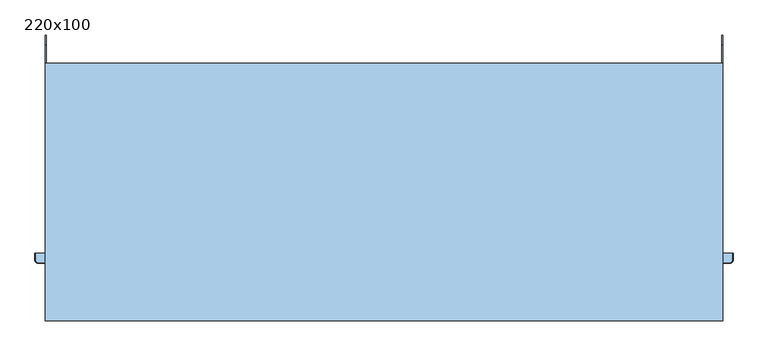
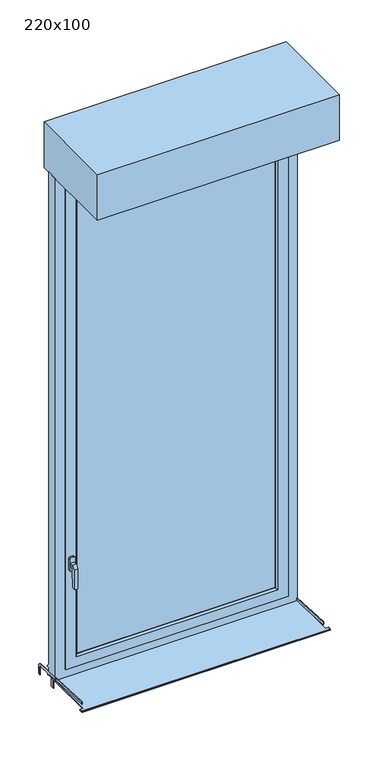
"""IFC4 building model written with IfcOpenShell, lengths in millimetres: window geometry, Tunnel 1V+VR+ Voile : 220x100."""

from ifc_helpers import new_model, si_unit, point, frame, frame_2d, origin, place, context, project, spatial, polyline, circle_curve, trimmed, segment, composite_curve, outline, extrude, faceted_brep, source, transform, mapped, element, save
from ifc_brep_helpers import plane_surface, cylinder_surface, revolved_surface, advanced_brep


def window_220x100_2f9f3537(model_context):
    return source(origin(), model_context, "Body", "SolidModel", [
        faceted_brep([(-445.5, 87.0, 1306.0), (-429.5, 87.0, 1306.0), (-429.5, 87.0, 1294.0), (-445.5, 87.0, 1294.0), (-445.5, 74.5147186, 1306.0), (-429.5, 74.5147186, 1306.0), (-429.5, 61.0, 1292.4852814), (-429.5, 61.0, 1208.5355339), (-429.5, 70.2419861, 1208.5355339), (-429.5, 72.9900091, 1287.2286157), (-429.5, 73.0, 1287.5147186), (-429.5, 79.4852814, 1294.0), (-445.5, 79.4852814, 1294.0), (-445.5, 73.0, 1287.5147186), (-445.5, 73.0, 1287.2282668), (-445.5, 70.2419861, 1208.5355339), (-445.5, 61.0, 1208.5355339), (-445.5, 61.0, 1292.4852814), (-433.0355339, 61.0, 1205.0), (-441.9644661, 61.0, 1205.0), (-441.9644661, 70.1185225, 1205.0), (-433.0355339, 70.1185225, 1205.0)], [[[0, 1, 2, 3]], [[1, 0, 4, 5]], [[2, 1, 5, 6, 7, 8, 9, 10, 11]], [[3, 2, 11, 12]], [[0, 3, 12, 13, 14, 15, 16, 17, 4]], [[5, 4, 17, 6]], [[11, 10, 13, 12]], [[18, 19, 20, 21]], [[6, 17, 16, 19, 18, 7]], [[13, 10, 9, 14]], [[14, 9, 8, 21, 20, 15]], [[8, 7, 18, 21]], [[16, 15, 20, 19]]]),
        extrude(outline(polyline([(1330.0, -444.5), (1325.0, -449.5), (1275.0, -449.5), (1270.0, -444.5), (1270.0, -430.5), (1275.0, -425.5), (1325.0, -425.5), (1330.0, -430.5), (1330.0, -444.5)])), frame((0.0, 87.0, 0.0), z_axis=(0.0, 1.0, 0.0), x_axis=(0.0, 0.0, 1.0)), (0.0, 0.0, 1.0), 8.0),
        extrude(outline(polyline([(115.0, 799.2138833), (130.0, 798.4277666), (130.0, 762.0), (115.0, 762.0), (115.0, 799.2138833)])), frame((-500.0, 0.0, 0.0), z_axis=(1.0, 0.0, 0.0), x_axis=(0.0, 1.0, 0.0)), (0.0, 0.0, 1.0), 2.0),
        extrude(outline(polyline([(130.0, 798.4277666), (130.0, 762.0), (115.0, 762.0), (115.0, 799.2138833), (130.0, 798.4277666)])), frame((498.0, 0.0, 0.0), z_axis=(1.0, 0.0, 0.0), x_axis=(0.0, 1.0, 0.0)), (0.0, 0.0, 1.0), 2.0),
        extrude(outline(composite_curve([segment(polyline([(221.5, 762.0), (211.5, 762.0), (211.5, 795.1063906)]), True, "CONTINUOUS"), segment(trimmed(circle_curve(frame_2d((206.5, 795.1063906)), 5.0), [point((211.5, 795.1063906))], [point((206.7616798, 800.0995383))], True, "CARTESIAN"), True, "CONTINUOUS"), segment(polyline([(206.7616798, 800.0995383), (155.0, 802.812253), (155.0, 797.1175721), (150.0, 797.379611), (150.0, 803.0742919), (-90.0, 815.6521589), (-89.4766404, 825.6384543), (207.2850393, 810.0858337)]), True, "CONTINUOUS"), segment(trimmed(circle_curve(frame_2d((206.5, 795.1063906)), 15.0), [point((207.2850393, 810.0858337))], [point((221.5, 795.1063906))], False, "CARTESIAN"), True, "CONTINUOUS"), segment(polyline([(221.5, 795.1063906), (221.5, 762.0)]), True, "CONTINUOUS")], self_intersect=False)), frame((498.0, 0.0, 0.0), z_axis=(1.0, 0.0, 0.0), x_axis=(0.0, 1.0, 0.0)), (0.0, 0.0, 1.0), 2.0),
        extrude(outline(composite_curve([segment(polyline([(155.0, 797.1175721), (150.0, 797.379611), (150.0, 803.0742919), (-90.0, 815.6521589), (-89.4766404, 825.6384543), (207.2850393, 810.0858337)]), True, "CONTINUOUS"), segment(trimmed(circle_curve(frame_2d((206.5, 795.1063906)), 15.0), [point((207.2850393, 810.0858337))], [point((221.5, 795.1063906))], False, "CARTESIAN"), True, "CONTINUOUS"), segment(polyline([(221.5, 795.1063906), (221.5, 762.0), (211.5, 762.0), (211.5, 795.1063906)]), True, "CONTINUOUS"), segment(trimmed(circle_curve(frame_2d((206.5, 795.1063906)), 5.0), [point((211.5, 795.1063906))], [point((206.7616798, 800.0995383))], True, "CARTESIAN"), True, "CONTINUOUS"), segment(polyline([(206.7616798, 800.0995383), (155.0, 802.812253), (155.0, 797.1175721)]), True, "CONTINUOUS")], self_intersect=False)), frame((-500.0, 0.0, 0.0), z_axis=(1.0, 0.0, 0.0), x_axis=(0.0, 1.0, 0.0)), (0.0, 0.0, 1.0), 2.0),
        extrude(outline(polyline([(-410.0, 105.0), (-410.0, 125.0), (410.0, 125.0), (410.0, 105.0), (-410.0, 105.0)])), frame((0.0, 0.0, 890.0), z_axis=(0.0, 0.0, 1.0), x_axis=(1.0, 0.0, 0.0)), (0.0, 0.0, 1.0), 2020.0),
        faceted_brep([(-460.0, 95.0, 840.0), (-460.0, 135.0, 840.0), (460.0, 135.0, 840.0), (460.0, 95.0, 840.0), (460.0, 135.0, 2960.0), (460.0, 95.0, 2960.0), (-460.0, 135.0, 2960.0), (417.0710678, 135.0, 2917.0710678), (-417.0710678, 135.0, 2917.0710678), (-417.0710678, 135.0, 882.9289322), (417.0710678, 135.0, 882.9289322), (-460.0, 95.0, 2960.0), (417.0710678, 95.0, 882.9289322), (-417.0710678, 95.0, 882.9289322), (-417.0710678, 95.0, 2917.0710678), (417.0710678, 95.0, 2917.0710678), (-410.0, 102.0710678, 890.0), (410.0, 102.0710678, 890.0), (410.0, 102.0710678, 2910.0), (410.0, 127.9289322, 890.0), (410.0, 127.9289322, 2910.0), (-410.0, 127.9289322, 890.0), (-410.0, 102.0710678, 2910.0), (-410.0, 127.9289322, 2910.0)], [[[0, 1, 2, 3]], [[3, 2, 4, 5]], [[2, 1, 6, 4], [7, 8, 9, 10]], [[5, 11, 0, 3], [12, 13, 14, 15]], [[16, 13, 12, 17]], [[17, 12, 15, 18]], [[19, 17, 18, 20]], [[9, 21, 19, 10]], [[10, 19, 20, 7]], [[11, 6, 1, 0]], [[22, 14, 13, 16]], [[23, 22, 16, 21]], [[8, 23, 21, 9]], [[21, 16, 17, 19]], [[5, 4, 6, 11]], [[18, 15, 14, 22]], [[7, 20, 23, 8]], [[20, 18, 22, 23]]]),
        faceted_brep([(500.0, 150.0, 800.0), (500.0, 150.0, 830.0), (500.0, 160.0, 830.0), (500.0, 160.0, 835.0), (500.0, 150.0, 845.0), (500.0, 150.0, 3000.0), (500.0, 100.0, 3000.0), (500.0, 100.0, 800.0), (-500.0, 150.0, 800.0), (-500.0, 150.0, 830.0), (-500.0, 160.0, 830.0), (-500.0, 160.0, 835.0), (-500.0, 150.0, 845.0), (-455.0, 150.0, 845.0), (-450.0, 145.0, 850.0), (450.0, 145.0, 850.0), (455.0, 150.0, 845.0), (-500.0, 150.0, 3000.0), (455.0, 150.0, 2955.0), (-455.0, 150.0, 2955.0), (-500.0, 100.0, 3000.0), (-500.0, 100.0, 800.0), (460.0, 100.0, 840.0), (-460.0, 100.0, 840.0), (-460.0, 100.0, 2960.0), (460.0, 100.0, 2960.0), (460.0, 135.0, 840.0), (-460.0, 135.0, 840.0), (-460.0, 135.0, 2960.0), (460.0, 135.0, 2960.0), (450.0, 135.0, 850.0), (-450.0, 135.0, 850.0), (-450.0, 135.0, 2950.0), (450.0, 135.0, 2950.0), (-450.0, 145.0, 2950.0), (450.0, 145.0, 2950.0)], [[[0, 1, 2, 3, 4, 5, 6, 7]], [[1, 0, 8, 9]], [[2, 1, 9, 10]], [[3, 2, 10, 11]], [[3, 11, 12, 13, 14, 15, 16, 4]], [[17, 5, 4, 16, 18, 19, 13, 12]], [[7, 6, 20, 21], [22, 23, 24, 25]], [[0, 7, 21, 8]], [[8, 21, 20, 17, 12, 11, 10, 9]], [[23, 22, 26, 27]], [[27, 28, 24, 23]], [[22, 25, 29, 26]], [[29, 28, 27, 26], [30, 31, 32, 33]], [[31, 30, 15, 14]], [[34, 32, 31, 14]], [[33, 35, 15, 30]], [[35, 18, 16, 15]], [[19, 34, 14, 13]], [[5, 17, 20, 6]], [[28, 29, 25, 24]], [[33, 32, 34, 35]], [[19, 18, 35, 34]]]),
        advanced_brep(
        [(500.0, -100.0, 805.0), (500.0, 100.0, 805.0), (-500.0, 100.0, 805.0), (-500.0, -100.0, 805.0), (-513.9971508, -100.0, 805.0), (-513.9971508, -110.0, 805.0), (-510.0, -113.9971508, 805.0), (510.0, -113.9971508, 805.0), (513.9971508, -110.0, 805.0), (513.9971508, -100.0, 805.0), (-500.0, -100.0, 800.0), (-500.0, 100.0, 800.0), (500.0, 100.0, 800.0), (500.0, -100.0, 800.0), (513.9971508, -100.0, 800.0), (513.9971508, -110.0, 800.0), (510.0, -113.9971508, 800.0), (-510.0, -113.9971508, 800.0), (-513.9971508, -110.0, 800.0), (-513.9971508, -100.0, 800.0), (-515.0, -110.0, 801.0028492), (-515.0, -110.0, 803.9971508), (-515.0, -100.0, 803.9971508), (-515.0, -100.0, 801.0028492), (515.0, -100.0, 803.9971508), (515.0, -100.0, 801.0028492), (515.0, -110.0, 803.9971508), (515.0, -110.0, 801.0028492), (510.0, -115.0, 801.0028492), (510.0, -115.0, 803.9971508), (-510.0, -115.0, 803.9971508), (-510.0, -115.0, 801.0028492)],
        [
            (0, 1),
            (1, 2),
            (2, 3),
            (3, 4),
            (4, 5),
            (5, 6, circle_curve(frame((-510.0, -110.0, 805.0), z_axis=(0.0, 0.0, 1.0), x_axis=(-1.0, 0.0, 0.0)), 3.9971508)),
            (6, 7),
            (7, 8, circle_curve(frame((510.0, -110.0, 805.0), z_axis=(0.0, 0.0, 1.0), x_axis=(0.0, -1.0, 0.0)), 3.9971508)),
            (8, 9),
            (9, 0),
            (10, 11),
            (11, 12),
            (12, 13),
            (13, 14),
            (14, 15),
            (15, 16, circle_curve(frame((510.0, -110.0, 800.0), z_axis=(0.0, 0.0, -1.0), x_axis=(0.0, -1.0, 0.0)), 3.9971508)),
            (16, 17),
            (17, 18, circle_curve(frame((-510.0, -110.0, 800.0), z_axis=(0.0, 0.0, -1.0), x_axis=(-1.0, 0.0, 0.0)), 3.9971508)),
            (18, 19),
            (19, 10),
            (20, 21),
            (21, 22),
            (22, 23),
            (23, 20),
            (3, 10),
            (19, 23),
            (22, 4),
            (2, 11),
            (1, 12),
            (0, 13),
            (9, 24),
            (24, 25),
            (25, 14),
            (24, 26),
            (26, 27),
            (27, 25),
            (28, 29),
            (29, 30),
            (30, 31),
            (31, 28),
            (28, 27, circle_curve(frame((510.0, -110.0, 801.0028492), z_axis=(0.0, 0.0, 1.0), x_axis=(0.0, -1.0, 0.0)), 5.0)),
            (26, 29, circle_curve(frame((510.0, -110.0, 803.9971508), z_axis=(0.0, 0.0, -1.0), x_axis=(0.0, -1.0, 0.0)), 5.0)),
            (20, 31, circle_curve(frame((-510.0, -110.0, 801.0028492), z_axis=(0.0, 0.0, 1.0), x_axis=(0.0, -1.0, 0.0)), 5.0)),
            (30, 21, circle_curve(frame((-510.0, -110.0, 803.9971508), z_axis=(0.0, 0.0, -1.0), x_axis=(0.0, -1.0, 0.0)), 5.0)),
            (21, 5),
            (18, 20),
            (30, 6),
            (17, 31),
            (29, 7),
            (16, 28),
            (26, 8),
            (15, 27),
        ],
        [
            plane_surface(frame((-515.0, -100.0, 805.0), z_axis=(0.0, 0.0, 1.0), x_axis=(0.0, -1.0, 0.0))),
            plane_surface(frame((-515.0, -100.0, 800.0), z_axis=(0.0, 0.0, -1.0), x_axis=(0.0, 1.0, 0.0))),
            plane_surface(frame((-515.0, -110.0, 800.0), z_axis=(-1.0, 0.0, 0.0), x_axis=(0.0, 0.0, 1.0))),
            plane_surface(frame((-515.0, -100.0, 800.0), z_axis=(0.0, 1.0, 0.0), x_axis=(0.0, 0.0, 1.0))),
            plane_surface(frame((-500.0, -100.0, 800.0), z_axis=(-1.0, 0.0, 0.0), x_axis=(0.0, 0.0, 1.0))),
            plane_surface(frame((-500.0, 100.0, 800.0), z_axis=(0.0, 1.0, 0.0), x_axis=(0.0, 0.0, 1.0))),
            plane_surface(frame((500.0, 100.0, 800.0), z_axis=(1.0, 0.0, 0.0), x_axis=(0.0, 0.0, 1.0))),
            plane_surface(frame((500.0, -100.0, 800.0), z_axis=(0.0, 1.0, 0.0), x_axis=(0.0, 0.0, 1.0))),
            plane_surface(frame((515.0, -100.0, 800.0), z_axis=(1.0, 0.0, 0.0), x_axis=(0.0, 0.0, 1.0))),
            plane_surface(frame((510.0, -115.0, 800.0), z_axis=(0.0, -1.0, 0.0), x_axis=(0.0, 0.0, 1.0))),
            cylinder_surface(frame((510.0, -110.0, 805.0), z_axis=(0.0, 0.0, -1.0), x_axis=(0.0, -1.0, 0.0)), 5.0),
            cylinder_surface(frame((-510.0, -110.0, 805.0), z_axis=(0.0, 0.0, -1.0), x_axis=(0.0, -1.0, 0.0)), 5.0),
            plane_surface(frame((-513.9971508, -100.0, 805.0), z_axis=(-0.7071067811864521, 0.0, 0.707106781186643), x_axis=(0.0, -1.0, 0.0))),
            plane_surface(frame((-515.0, -100.0, 801.0028492), z_axis=(-0.7071067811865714, 0.0, -0.7071067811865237), x_axis=(0.0, -1.0, 0.0))),
            revolved_surface(polyline([(-515.0, -110.0, 803.9971508), (-513.9971508, -110.0, 805.0)]), (-510.0, -110.0, 805.0), (0.0, 0.0, 1.0)),
            revolved_surface(polyline([(-513.9971508, -110.0, 800.0), (-515.0, -110.0, 801.0028492)]), (-510.0, -110.0, 805.0), (0.0, 0.0, 1.0)),
            plane_surface(frame((-510.0, -113.9971508, 805.0), z_axis=(0.0, -0.7071067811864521, 0.707106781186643), x_axis=(1.0, 0.0, 0.0))),
            plane_surface(frame((-510.0, -115.0, 801.0028492), z_axis=(0.0, -0.7071067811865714, -0.7071067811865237), x_axis=(1.0, 0.0, 0.0))),
            revolved_surface(polyline([(510.0, -115.0, 803.9971508), (510.0, -113.9971508, 805.0)]), (510.0, -110.0, 805.0), (0.0, 0.0, 1.0)),
            revolved_surface(polyline([(510.0, -113.9971508, 800.0), (510.0, -115.0, 801.0028492)]), (510.0, -110.0, 805.0), (0.0, 0.0, 1.0)),
            plane_surface(frame((513.9971508, -110.0, 805.0), z_axis=(0.7071067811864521, 0.0, 0.707106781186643), x_axis=(0.0, 1.0, 0.0))),
            plane_surface(frame((515.0, -110.0, 801.0028492), z_axis=(0.7071067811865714, 0.0, -0.7071067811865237), x_axis=(0.0, 1.0, 0.0))),
        ],
        [
            (0, [[1, 2, 3, 4, 5, 6, 7, 8, 9, 10]]),
            (1, [[11, 12, 13, 14, 15, 16, 17, 18, 19, 20]]),
            (2, [[21, 22, 23, 24]]),
            (3, [[25, -20, 26, -23, 27, -4]]),
            (4, [[-3, 28, -11, -25]]),
            (5, [[-2, 29, -12, -28]]),
            (6, [[-1, 30, -13, -29]]),
            (7, [[-30, -10, 31, 32, 33, -14]]),
            (8, [[-32, 34, 35, 36]]),
            (9, [[37, 38, 39, 40]]),
            (10, [[-37, 41, -35, 42]]),
            (11, [[-21, 43, -39, 44]]),
            (12, [[45, -5, -27, -22]]),
            (13, [[46, -24, -26, -19]]),
            (14, [[-45, -44, 47, -6]]),
            (15, [[-46, -18, 48, -43]]),
            (16, [[-47, -38, 49, -7]]),
            (17, [[-48, -17, 50, -40]]),
            (18, [[-49, -42, 51, -8]]),
            (19, [[-50, -16, 52, -41]]),
            (20, [[-51, -34, -31, -9]]),
            (21, [[-52, -15, -33, -36]]),
        ],
    ),
        extrude(outline(polyline([(-500.0, -200.0), (-500.0, 180.0), (500.0, 180.0), (500.0, -200.0), (-500.0, -200.0)])), frame((0.0, 0.0, 3000.0), z_axis=(0.0, 0.0, 1.0), x_axis=(1.0, 0.0, 0.0)), (0.0, 0.0, 1.0), 200.0),
    ])


if __name__ == "__main__":
    model = new_model("IFC4")
    model_context = context("Model", 3, world=origin())
    ifc_project = project(units=[si_unit("LENGTHUNIT", "METRE", prefix="MILLI")], contexts=[model_context])
    site = spatial("IfcSite", under=ifc_project)
    building = spatial("IfcBuilding", under=site)
    placement = place(None, origin())
    window_220x100_shape = window_220x100_2f9f3537(model_context)
    element("IfcWindow", 1, ObjectType="Tunnel 1V+VR+ Voile : 220x100", at=placement, inside=building, context=model_context, shape_type="MappedRepresentation", body=[
        mapped(window_220x100_shape, transform((0.0, 0.0, 0.0), x_axis=(1.0, 0.0, 0.0), y_axis=(0.0, 1.0, 0.0), z_axis=(0.0, 0.0, 1.0))),
    ])
    save(model, "model.ifc")
